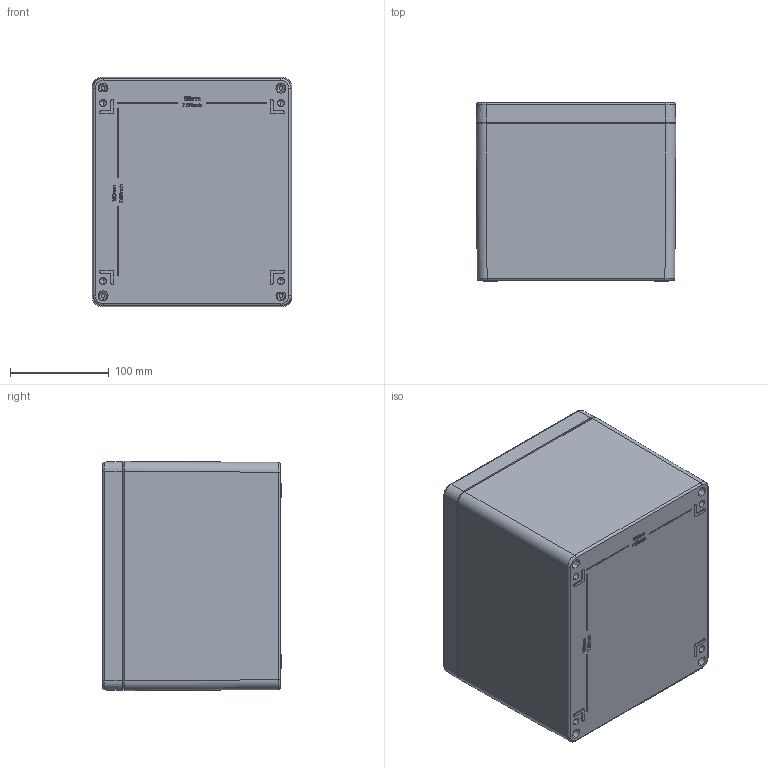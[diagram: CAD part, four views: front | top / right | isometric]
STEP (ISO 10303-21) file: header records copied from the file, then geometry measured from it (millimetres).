
FILE_DESCRIPTION (( 'STEP AP203' ), '1' );
FILE_NAME ('BB092.STEP', '2024-12-24T03:50:31', ( '' ), ( '' ), 'SwSTEP 2.0', 'SolidWorks 2019', '' );
FILE_SCHEMA (( 'CONFIG_CONTROL_DESIGN' ));
Length unit declared in the file: millimetre
Products named in the file (3): cover_232x202x181; BB092; housing_232x202x181
Assembly tree (2 placements, depth 2):
  BB092
    housing_232x202x181
    cover_232x202x181
Bounding box: 202 x 181 x 232 mm (x, y, z)
Volume: 1435034.2 mm3; surface area: 509510.3 mm2
Topology: 2 solids, 2 shells, 1073 faces, 2594 edges, 1631 vertices
Faces by surface type: plane 432, cylinder 241, bspline 228, cone 121, torus 44, sphere 7
Entity records: 43229 total; most frequent: CARTESIAN_POINT 19413, ORIENTED_EDGE 5156, DIRECTION 4298, EDGE_CURVE 2578, VERTEX_POINT 1631, VECTOR 1450, LINE 1450, AXIS2_PLACEMENT_3D 1424
